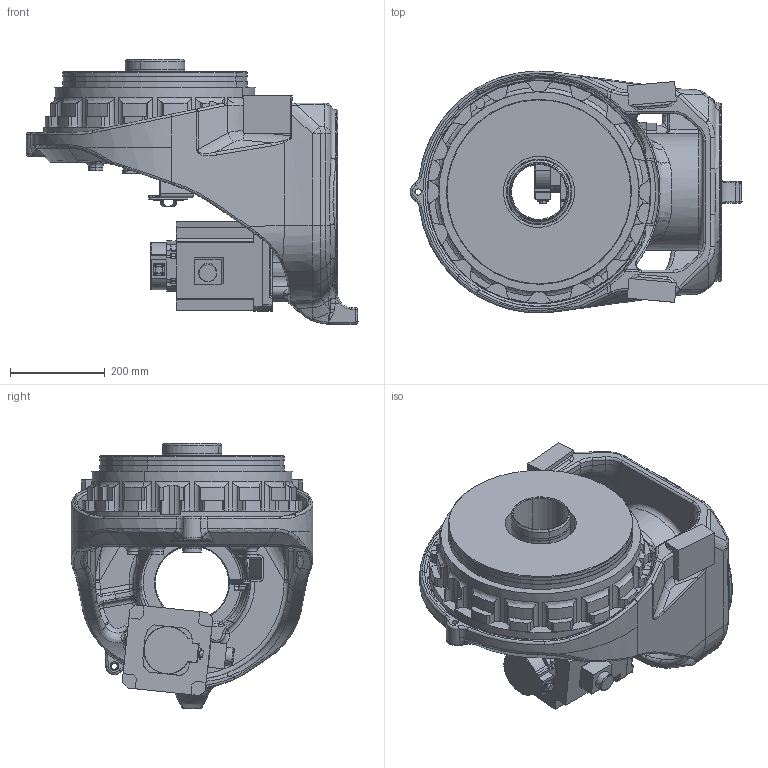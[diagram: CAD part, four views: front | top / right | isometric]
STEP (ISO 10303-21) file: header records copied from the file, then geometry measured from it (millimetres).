
FILE_DESCRIPTION(('CATIA V5 STEP Exchange','CAx-IF Rec.Pracs.--- Model Styling and Organization---1.2---2011-12-15','CAx-IF Rec.Pracs.--- Geometric and Assembly Validation Properties ---3.1---2011-10-19'),'2;1');
FILE_NAME('Z:\ROBOT\CATIA06\products\MC1000DL\Light_model\Step\110_J5Wrist_MC1000DL-02.stp','2016-12-26T04:03:46+00:00',('none'),('none'),'Version 5-6 Release 2012','CATIA V5 STEP AP214','none');
FILE_SCHEMA(('AUTOMOTIVE_DESIGN { 1 0 10303 214 1 1 1 1 }'));
Products named in the file (1): 110_J5Wrist_MC1000DL-02
Bounding box: 700 x 510 x 558.94 mm (x, y, z)
Volume: 44730644.1 mm3; surface area: 2678066.1 mm2
Topology: 14 solids, 19 shells, 1813 faces, 4526 edges, 2725 vertices
Faces by surface type: bspline 586, plane 483, cylinder 439, torus 205, cone 75, sphere 24, extrusion 1
Entity records: 87659 total; most frequent: CARTESIAN_POINT 51507, ORIENTED_EDGE 8912, DIRECTION 4480, EDGE_CURVE 4464, VERTEX_POINT 2725, AXIS2_PLACEMENT_3D 2136, B_SPLINE_CURVE_WITH_KNOTS 1928, EDGE_LOOP 1883
